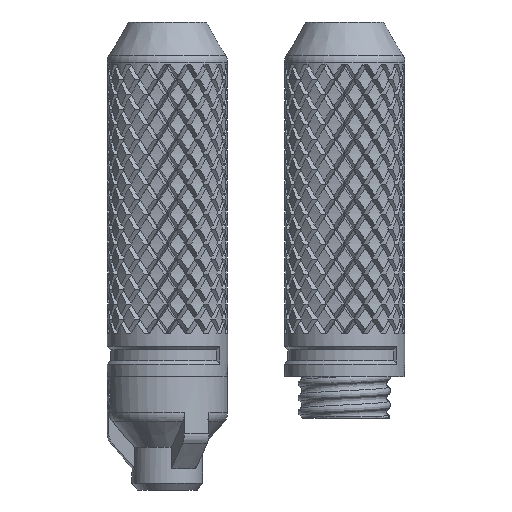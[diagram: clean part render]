
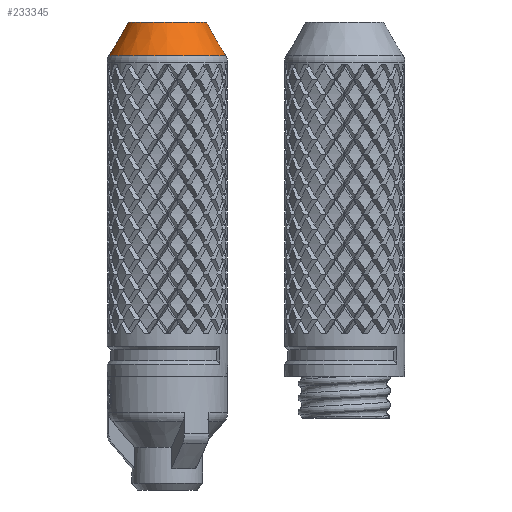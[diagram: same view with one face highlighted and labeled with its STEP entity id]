
A CAD part, left-side view. The second image highlights one B-rep face of the part: STEP entity #233345.
In plain terms, the highlighted conical face has half-angle 30 degrees and reference radius 7 mm.
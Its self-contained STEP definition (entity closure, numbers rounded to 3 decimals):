
#195=CONICAL_SURFACE('',#250894,7.,0.524);
#362=CIRCLE('',#250891,8.232);
#365=CIRCLE('',#250895,5.5);
#1931=LINE('',#308440,#3201);
#3201=VECTOR('',#256567,7.);
#20568=FACE_OUTER_BOUND('',#39375,.T.);
#39375=EDGE_LOOP('',(#158194,#158195,#158196,#158197));
#94752=VERTEX_POINT('',#308432);
#94754=VERTEX_POINT('',#308438);
#116249=EDGE_CURVE('',#94752,#94752,#362,.T.);
#116252=EDGE_CURVE('',#94754,#94754,#365,.T.);
#116253=EDGE_CURVE('',#94754,#94752,#1931,.T.);
#158194=ORIENTED_EDGE('',*,*,#116252,.T.);
#158195=ORIENTED_EDGE('',*,*,#116253,.T.);
#158196=ORIENTED_EDGE('',*,*,#116249,.F.);
#158197=ORIENTED_EDGE('',*,*,#116253,.F.);
#233345=ADVANCED_FACE('',(#20568),#195,.T.);
#250891=AXIS2_PLACEMENT_3D('',#308433,#256557,#256558);
#250894=AXIS2_PLACEMENT_3D('',#308437,#256563,#256564);
#250895=AXIS2_PLACEMENT_3D('',#308439,#256565,#256566);
#256557=DIRECTION('center_axis',(0.,0.,-1.));
#256558=DIRECTION('ref_axis',(1.,0.,0.));
#256563=DIRECTION('center_axis',(0.,0.,-1.));
#256564=DIRECTION('ref_axis',(1.,0.,0.));
#256565=DIRECTION('center_axis',(0.,0.,-1.));
#256566=DIRECTION('ref_axis',(1.,0.,0.));
#256567=DIRECTION('',(-0.5,0.,-0.866));
#308432=CARTESIAN_POINT('',(-8.232,0.,45.268));
#308433=CARTESIAN_POINT('Origin',(0.,0.,45.268));
#308437=CARTESIAN_POINT('Origin',(0.,0.,47.402));
#308438=CARTESIAN_POINT('',(-5.5,0.,50.));
#308439=CARTESIAN_POINT('Origin',(0.,0.,50.));
#308440=CARTESIAN_POINT('',(-7.,0.,47.402));
